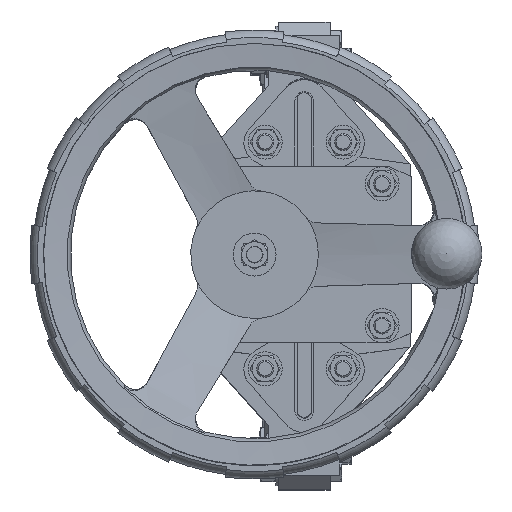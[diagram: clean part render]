
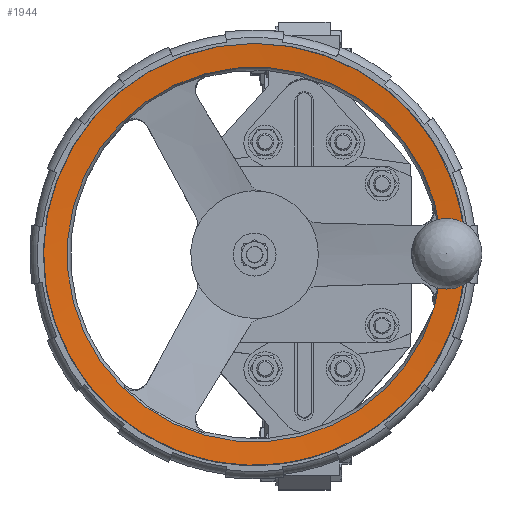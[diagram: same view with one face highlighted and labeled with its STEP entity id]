
A CAD part, top view. The second image highlights one B-rep face of the part: STEP entity #1944.
In plain terms, the highlighted conical face has half-angle 85 degrees and reference radius 149 mm.
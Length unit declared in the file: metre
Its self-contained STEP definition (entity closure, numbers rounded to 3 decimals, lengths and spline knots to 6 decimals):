
#1944=ADVANCED_FACE('',(#6291),#6292,.F.);
#6291=FACE_OUTER_BOUND('',#11703,.T.);
#6292=CONICAL_SURFACE('',#11704,0.149,1.484);
#11703=EDGE_LOOP('',(#25510,#25511,#25512,#25513,#25514,#25515));
#11704=AXIS2_PLACEMENT_3D('',#25516,#25517,#25518);
#25510=ORIENTED_EDGE('',*,*,#30116,.F.);
#25511=ORIENTED_EDGE('',*,*,#26560,.T.);
#25512=ORIENTED_EDGE('',*,*,#26341,.T.);
#25513=ORIENTED_EDGE('',*,*,#26378,.T.);
#25514=ORIENTED_EDGE('',*,*,#26337,.T.);
#25515=ORIENTED_EDGE('',*,*,#26562,.T.);
#25516=CARTESIAN_POINT('',(-0.035,0.,0.596465));
#25517=DIRECTION('',(0.,0.,1.));
#25518=DIRECTION('',(0.,-1.,0.));
#26337=EDGE_CURVE('',#31111,#31109,#31112,.T.);
#26341=EDGE_CURVE('',#31105,#31117,#31119,.T.);
#26378=EDGE_CURVE('',#31117,#31111,#31178,.T.);
#26560=EDGE_CURVE('',#31472,#31105,#31474,.T.);
#26562=EDGE_CURVE('',#31109,#31475,#31477,.T.);
#30116=EDGE_CURVE('',#31472,#31475,#37369,.T.);
#31105=VERTEX_POINT('',#38664);
#31109=VERTEX_POINT('',#38669);
#31111=VERTEX_POINT('',#38672);
#31112=B_SPLINE_CURVE_WITH_KNOTS('',3,(#38673,#38674,#38675,#38676),.UNSPECIFIED.,.F.,.F.,(4,4),(0.000002,0.003589),.UNSPECIFIED.);
#31117=VERTEX_POINT('',#38727);
#31119=B_SPLINE_CURVE_WITH_KNOTS('',3,(#38732,#38733,#38734,#38735,#38736,#38737),.UNSPECIFIED.,.F.,.F.,(4,2,4),(0.017724,0.019511,0.021297),.UNSPECIFIED.);
#31178=CIRCLE('',#39461,0.132253);
#31472=VERTEX_POINT('',#40134);
#31474=B_SPLINE_CURVE_WITH_KNOTS('',3,(#40137,#40138,#40139,#40140,#40141,#40142,#40143),.UNSPECIFIED.,.F.,.F.,(4,3,4),(0.013863,0.02539,0.027156),.UNSPECIFIED.);
#31475=VERTEX_POINT('',#40144);
#31477=B_SPLINE_CURVE_WITH_KNOTS('',3,(#40147,#40148,#40149,#40150,#40151,#40152,#40153),.UNSPECIFIED.,.F.,.F.,(4,3,4),(0.023624,0.02539,0.036917),.UNSPECIFIED.);
#37369=CIRCLE('',#53640,0.149);
#38664=CARTESIAN_POINT('',(0.1,-0.015,0.595313));
#38669=CARTESIAN_POINT('',(0.1,0.015,0.595313));
#38672=CARTESIAN_POINT('',(0.096448,0.014573,0.595));
#38673=CARTESIAN_POINT('',(0.096448,0.014573,0.595));
#38674=CARTESIAN_POINT('',(0.097622,0.014859,0.595105));
#38675=CARTESIAN_POINT('',(0.098806,0.015,0.595209));
#38676=CARTESIAN_POINT('',(0.1,0.015,0.595313));
#38727=CARTESIAN_POINT('',(0.096448,-0.014573,0.595));
#38732=CARTESIAN_POINT('',(0.1,-0.015,0.595313));
#38733=CARTESIAN_POINT('',(0.099407,-0.015,0.595261));
#38734=CARTESIAN_POINT('',(0.098814,-0.014965,0.595209));
#38735=CARTESIAN_POINT('',(0.097627,-0.014823,0.595105));
#38736=CARTESIAN_POINT('',(0.097032,-0.014716,0.595052));
#38737=CARTESIAN_POINT('',(0.096448,-0.014573,0.595));
#39461=AXIS2_PLACEMENT_3D('',#54354,#54355,#54356);
#40134=CARTESIAN_POINT('',(0.113243,-0.015,0.596465));
#40137=CARTESIAN_POINT('',(0.113243,-0.015,0.596465));
#40138=CARTESIAN_POINT('',(0.109415,-0.015,0.596132));
#40139=CARTESIAN_POINT('',(0.105588,-0.015,0.595799));
#40140=CARTESIAN_POINT('',(0.10176,-0.015,0.595466));
#40141=CARTESIAN_POINT('',(0.101173,-0.015,0.595415));
#40142=CARTESIAN_POINT('',(0.100587,-0.015,0.595364));
#40143=CARTESIAN_POINT('',(0.1,-0.015,0.595313));
#40144=CARTESIAN_POINT('',(0.113243,0.015,0.596465));
#40147=CARTESIAN_POINT('',(0.1,0.015,0.595313));
#40148=CARTESIAN_POINT('',(0.100587,0.015,0.595364));
#40149=CARTESIAN_POINT('',(0.101173,0.015,0.595415));
#40150=CARTESIAN_POINT('',(0.10176,0.015,0.595466));
#40151=CARTESIAN_POINT('',(0.105588,0.015,0.595799));
#40152=CARTESIAN_POINT('',(0.109415,0.015,0.596132));
#40153=CARTESIAN_POINT('',(0.113243,0.015,0.596465));
#53640=AXIS2_PLACEMENT_3D('',#59626,#59627,#59628);
#54354=CARTESIAN_POINT('',(-0.035,0.,0.595));
#54355=DIRECTION('',(0.,0.,-1.));
#54356=DIRECTION('',(0.,1.,0.));
#59626=CARTESIAN_POINT('',(-0.035,0.,0.596465));
#59627=DIRECTION('',(0.,0.,-1.));
#59628=DIRECTION('',(0.,1.,0.));
